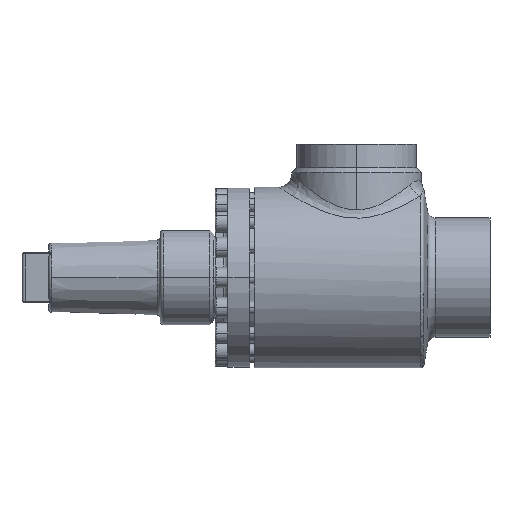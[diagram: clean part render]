
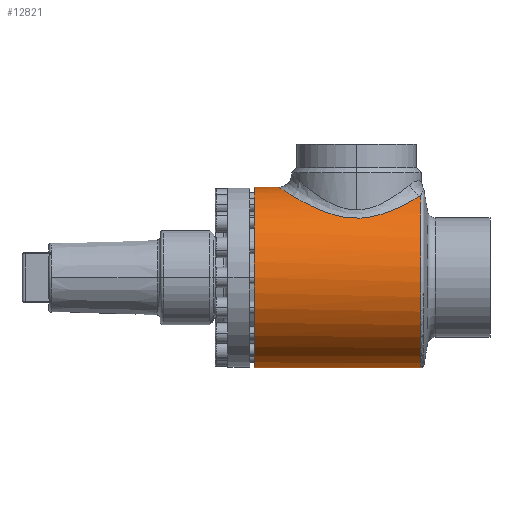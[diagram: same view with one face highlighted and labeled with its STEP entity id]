
A CAD part, left-side view. The second image highlights one B-rep face of the part: STEP entity #12821.
In plain terms, the highlighted cylindrical face has radius 57.5 mm (diameter 115 mm), a partial arc.
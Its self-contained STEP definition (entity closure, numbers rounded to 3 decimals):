
#650 = EDGE_CURVE ( 'NONE', #14795, #7964, #13493, .T. ) ;
#737 = ORIENTED_EDGE ( 'NONE', *, *, #650, .T. ) ;
#2059 = EDGE_CURVE ( 'NONE', #10716, #6504, #14150, .T. ) ;
#6482 = ORIENTED_EDGE ( 'NONE', *, *, #10744, .T. ) ;
#6504 = VERTEX_POINT ( 'NONE', #10075 ) ;
#6559 = VERTEX_POINT ( 'NONE', #10089 ) ;
#6772 = EDGE_CURVE ( 'NONE', #14795, #6559, #10165, .T. ) ;
#7317 = CARTESIAN_POINT ( 'NONE',  ( 0., -105.892, -57.5 ) ) ;
#7527 = CARTESIAN_POINT ( 'NONE',  ( 0., -15.7, 57.5 ) ) ;
#7817 = B_SPLINE_CURVE_WITH_KNOTS ( 'NONE', 3,
 ( #7818, #7819, #7820, #7821, #7822, #7823, #7824, #7826, #7827, #7828, #7829, #7830, #7831, #7832, #7833, #7834, #7835, #7836, #7837, #7838, #7839, #7840, #7841, #7844, #7845, #7846, #7847, #7848, #7849, #7850, #7851, #7852, #7853, #7854, #7855, #7856, #7857, #7858, #7859, #7862, #7863, #7864, #7865, #7866, #7867, #7868, #7869, #7870, #7871, #7872, #7873, #7874, #7875, #7876, #7877, #7879, #7880, #7881, #7882, #7883, #7884, #7885 ),
 .UNSPECIFIED., .F., .F.,
 ( 4, 2, 2, 2, 2, 2, 2, 2, 2, 2, 2, 2, 2, 2, 2, 2, 2, 2, 2, 2, 2, 2, 2, 2, 2, 2, 2, 2, 2, 2, 4 ),
 ( 0., 0.008, 0.016, 0.017, 0.019, 0.023, 0.031, 0.035, 0.039, 0.047, 0.049, 0.05, 0.054, 0.058, 0.06, 0.062, 0.07, 0.074, 0.078, 0.085, 0.089, 0.091, 0.093, 0.101, 0.105, 0.107, 0.109, 0.116, 0.118, 0.12, 0.124 ),
 .UNSPECIFIED. ) ;
#7818 = CARTESIAN_POINT ( 'NONE',  ( -24.174, -105.892, 52.171 ) ) ;
#7819 = CARTESIAN_POINT ( 'NONE',  ( -26.132, -104.39, 51.264 ) ) ;
#7820 = CARTESIAN_POINT ( 'NONE',  ( -27.915, -102.76, 50.305 ) ) ;
#7821 = CARTESIAN_POINT ( 'NONE',  ( -31.195, -99.268, 48.34 ) ) ;
#7822 = CARTESIAN_POINT ( 'NONE',  ( -32.691, -97.405, 47.333 ) ) ;
#7823 = CARTESIAN_POINT ( 'NONE',  ( -34.397, -94.927, 46.079 ) ) ;
#7824 = CARTESIAN_POINT ( 'NONE',  ( -34.73, -94.424, 45.829 ) ) ;
#7826 = CARTESIAN_POINT ( 'NONE',  ( -35.379, -93.402, 45.329 ) ) ;
#7827 = CARTESIAN_POINT ( 'NONE',  ( -35.695, -92.884, 45.08 ) ) ;
#7828 = CARTESIAN_POINT ( 'NONE',  ( -36.613, -91.317, 44.344 ) ) ;
#7829 = CARTESIAN_POINT ( 'NONE',  ( -37.186, -90.253, 43.863 ) ) ;
#7830 = CARTESIAN_POINT ( 'NONE',  ( -38.793, -86.998, 42.466 ) ) ;
#7831 = CARTESIAN_POINT ( 'NONE',  ( -39.716, -84.747, 41.594 ) ) ;
#7832 = CARTESIAN_POINT ( 'NONE',  ( -40.882, -81.225, 40.437 ) ) ;
#7833 = CARTESIAN_POINT ( 'NONE',  ( -41.234, -80.027, 40.077 ) ) ;
#7834 = CARTESIAN_POINT ( 'NONE',  ( -41.862, -77.576, 39.421 ) ) ;
#7835 = CARTESIAN_POINT ( 'NONE',  ( -42.138, -76.319, 39.125 ) ) ;
#7836 = CARTESIAN_POINT ( 'NONE',  ( -42.831, -72.529, 38.37 ) ) ;
#7837 = CARTESIAN_POINT ( 'NONE',  ( -43.12, -69.961, 38.038 ) ) ;
#7838 = CARTESIAN_POINT ( 'NONE',  ( -43.257, -66.692, 37.883 ) ) ;
#7839 = CARTESIAN_POINT ( 'NONE',  ( -43.273, -66.034, 37.864 ) ) ;
#7840 = CARTESIAN_POINT ( 'NONE',  ( -43.282, -64.718, 37.854 ) ) ;
#7841 = CARTESIAN_POINT ( 'NONE',  ( -43.275, -64.063, 37.862 ) ) ;
#7844 = CARTESIAN_POINT ( 'NONE',  ( -43.219, -62.103, 37.926 ) ) ;
#7845 = CARTESIAN_POINT ( 'NONE',  ( -43.137, -60.806, 38.02 ) ) ;
#7846 = CARTESIAN_POINT ( 'NONE',  ( -42.884, -58.229, 38.305 ) ) ;
#7847 = CARTESIAN_POINT ( 'NONE',  ( -42.713, -56.95, 38.496 ) ) ;
#7848 = CARTESIAN_POINT ( 'NONE',  ( -42.391, -55.043, 38.85 ) ) ;
#7849 = CARTESIAN_POINT ( 'NONE',  ( -42.272, -54.408, 38.979 ) ) ;
#7850 = CARTESIAN_POINT ( 'NONE',  ( -42.014, -53.15, 39.257 ) ) ;
#7851 = CARTESIAN_POINT ( 'NONE',  ( -41.875, -52.528, 39.406 ) ) ;
#7852 = CARTESIAN_POINT ( 'NONE',  ( -41.13, -49.446, 40.191 ) ) ;
#7853 = CARTESIAN_POINT ( 'NONE',  ( -40.378, -47.077, 40.957 ) ) ;
#7854 = CARTESIAN_POINT ( 'NONE',  ( -39.022, -43.642, 42.237 ) ) ;
#7855 = CARTESIAN_POINT ( 'NONE',  ( -38.532, -42.517, 42.685 ) ) ;
#7856 = CARTESIAN_POINT ( 'NONE',  ( -37.473, -40.304, 43.618 ) ) ;
#7857 = CARTESIAN_POINT ( 'NONE',  ( -36.908, -39.223, 44.098 ) ) ;
#7858 = CARTESIAN_POINT ( 'NONE',  ( -35.115, -36.073, 45.559 ) ) ;
#7859 = CARTESIAN_POINT ( 'NONE',  ( -33.785, -34.085, 46.562 ) ) ;
#7862 = CARTESIAN_POINT ( 'NONE',  ( -31.574, -31.259, 48.064 ) ) ;
#7863 = CARTESIAN_POINT ( 'NONE',  ( -30.801, -30.343, 48.564 ) ) ;
#7864 = CARTESIAN_POINT ( 'NONE',  ( -29.582, -29.009, 49.309 ) ) ;
#7865 = CARTESIAN_POINT ( 'NONE',  ( -29.166, -28.57, 49.557 ) ) ;
#7866 = CARTESIAN_POINT ( 'NONE',  ( -28.313, -27.708, 50.049 ) ) ;
#7867 = CARTESIAN_POINT ( 'NONE',  ( -27.875, -27.282, 50.294 ) ) ;
#7868 = CARTESIAN_POINT ( 'NONE',  ( -25.646, -25.201, 51.504 ) ) ;
#7869 = CARTESIAN_POINT ( 'NONE',  ( -23.737, -23.688, 52.419 ) ) ;
#7870 = CARTESIAN_POINT ( 'NONE',  ( -20.66, -21.659, 53.671 ) ) ;
#7871 = CARTESIAN_POINT ( 'NONE',  ( -19.599, -21.023, 54.069 ) ) ;
#7872 = CARTESIAN_POINT ( 'NONE',  ( -17.948, -20.134, 54.63 ) ) ;
#7873 = CARTESIAN_POINT ( 'NONE',  ( -17.388, -19.848, 54.811 ) ) ;
#7874 = CARTESIAN_POINT ( 'NONE',  ( -16.247, -19.3, 55.16 ) ) ;
#7875 = CARTESIAN_POINT ( 'NONE',  ( -15.665, -19.037, 55.328 ) ) ;
#7876 = CARTESIAN_POINT ( 'NONE',  ( -12.734, -17.796, 56.125 ) ) ;
#7877 = CARTESIAN_POINT ( 'NONE',  ( -10.302, -17.028, 56.627 ) ) ;
#7879 = CARTESIAN_POINT ( 'NONE',  ( -7.142, -16.371, 57.058 ) ) ;
#7880 = CARTESIAN_POINT ( 'NONE',  ( -6.505, -16.254, 57.135 ) ) ;
#7881 = CARTESIAN_POINT ( 'NONE',  ( -5.216, -16.054, 57.267 ) ) ;
#7882 = CARTESIAN_POINT ( 'NONE',  ( -4.563, -15.969, 57.322 ) ) ;
#7883 = CARTESIAN_POINT ( 'NONE',  ( -2.602, -15.766, 57.456 ) ) ;
#7884 = CARTESIAN_POINT ( 'NONE',  ( -1.298, -15.7, 57.5 ) ) ;
#7885 = CARTESIAN_POINT ( 'NONE',  ( 0., -15.7, 57.5 ) ) ;
#7901 = CARTESIAN_POINT ( 'NONE',  ( -24.174, -105.892, 52.171 ) ) ;
#7964 = VERTEX_POINT ( 'NONE', #7901 ) ;
#8754 = EDGE_LOOP ( 'NONE', ( #12731, #737, #6482, #10701, #15375 ) ) ;
#9508 = EDGE_CURVE ( 'NONE', #6559, #6504, #10897, .T. ) ;
#9678 = FACE_OUTER_BOUND ( 'NONE', #8754, .T. ) ;
#9679 = CYLINDRICAL_SURFACE ( 'NONE', #9680, 57.5 ) ;
#9680 = AXIS2_PLACEMENT_3D ( 'NONE', #9681, #9682, #9683 ) ;
#9681 = CARTESIAN_POINT ( 'NONE',  ( 0., -111., 0. ) ) ;
#9682 = DIRECTION ( 'NONE',  ( 0., 1., 0. ) ) ;
#9683 = DIRECTION ( 'NONE',  ( 0., 0., 1. ) ) ;
#10075 = CARTESIAN_POINT ( 'NONE',  ( 0., 0., 57.5 ) ) ;
#10089 = CARTESIAN_POINT ( 'NONE',  ( 0., 0., -57.5 ) ) ;
#10165 = LINE ( 'NONE', #10166, #10167 ) ;
#10166 = CARTESIAN_POINT ( 'NONE',  ( 0., -111., -57.5 ) ) ;
#10167 = VECTOR ( 'NONE', #10168, 1000. ) ;
#10168 = DIRECTION ( 'NONE',  ( 0., 1., 0. ) ) ;
#10701 = ORIENTED_EDGE ( 'NONE', *, *, #2059, .T. ) ;
#10716 = VERTEX_POINT ( 'NONE', #7527 ) ;
#10744 = EDGE_CURVE ( 'NONE', #7964, #10716, #7817, .T. ) ;
#10897 = CIRCLE ( 'NONE', #10898, 57.5 ) ;
#10898 = AXIS2_PLACEMENT_3D ( 'NONE', #10899, #10900, #10901 ) ;
#10899 = CARTESIAN_POINT ( 'NONE',  ( 0., 0., 0. ) ) ;
#10900 = DIRECTION ( 'NONE',  ( 0., 1., 0. ) ) ;
#10901 = DIRECTION ( 'NONE',  ( 0., 0., 1. ) ) ;
#12731 = ORIENTED_EDGE ( 'NONE', *, *, #6772, .F. ) ;
#12821 = ADVANCED_FACE ( 'NONE', ( #9678 ), #9679, .T. ) ;
#13493 = CIRCLE ( 'NONE', #13494, 57.5 ) ;
#13494 = AXIS2_PLACEMENT_3D ( 'NONE', #13495, #13496, #13497 ) ;
#13495 = CARTESIAN_POINT ( 'NONE',  ( 0., -105.892, 0. ) ) ;
#13496 = DIRECTION ( 'NONE',  ( 0., 1., 0. ) ) ;
#13497 = DIRECTION ( 'NONE',  ( 0., 0., -1. ) ) ;
#14150 = LINE ( 'NONE', #14151, #14152 ) ;
#14151 = CARTESIAN_POINT ( 'NONE',  ( 0., -111., 57.5 ) ) ;
#14152 = VECTOR ( 'NONE', #14153, 1000. ) ;
#14153 = DIRECTION ( 'NONE',  ( 0., 1., 0. ) ) ;
#14795 = VERTEX_POINT ( 'NONE', #7317 ) ;
#15375 = ORIENTED_EDGE ( 'NONE', *, *, #9508, .F. ) ;
